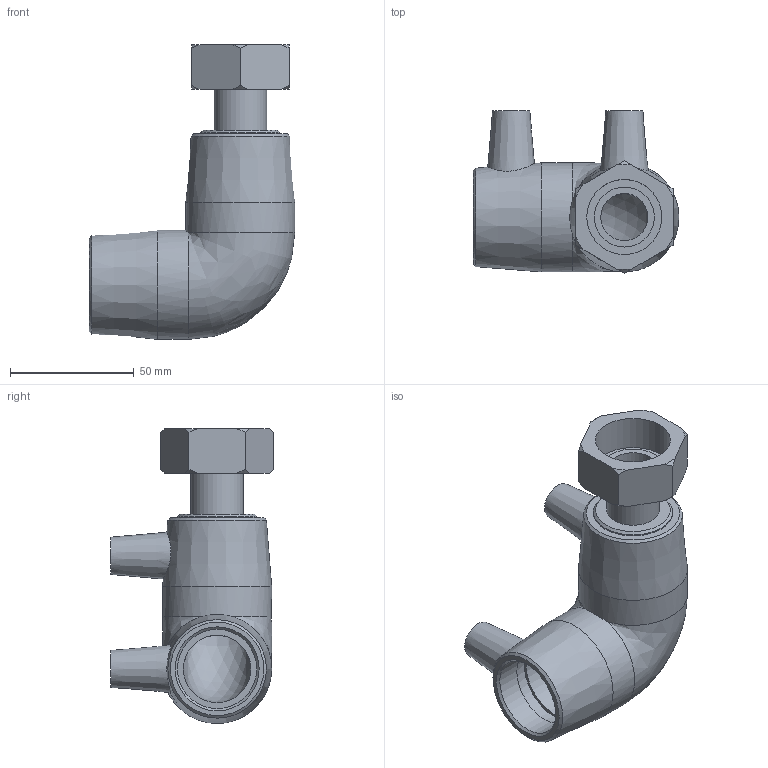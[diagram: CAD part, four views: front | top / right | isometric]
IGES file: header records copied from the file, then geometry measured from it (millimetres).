
Global section: file name: 494504032010.ipt; native system: Autodesk Inventor 2015; preprocessor: unknown; author: KIM; date: 20180426.120815; units: millimetre
Bounding box: 83 x 65.72 x 119 mm (x, y, z)
Volume: 124755.1 mm3; surface area: 39415.7 mm2
Topology: 1 solids, 2 shells, 61 faces, 146 edges, 98 vertices
Faces by surface type: plane 23, cone 19, revolution 10, cylinder 8, bspline 1
Full cylindrical faces by diameter (mm): 4 x2, 21.204 x1, 24.233 x1, 32 x2, 44 x2
